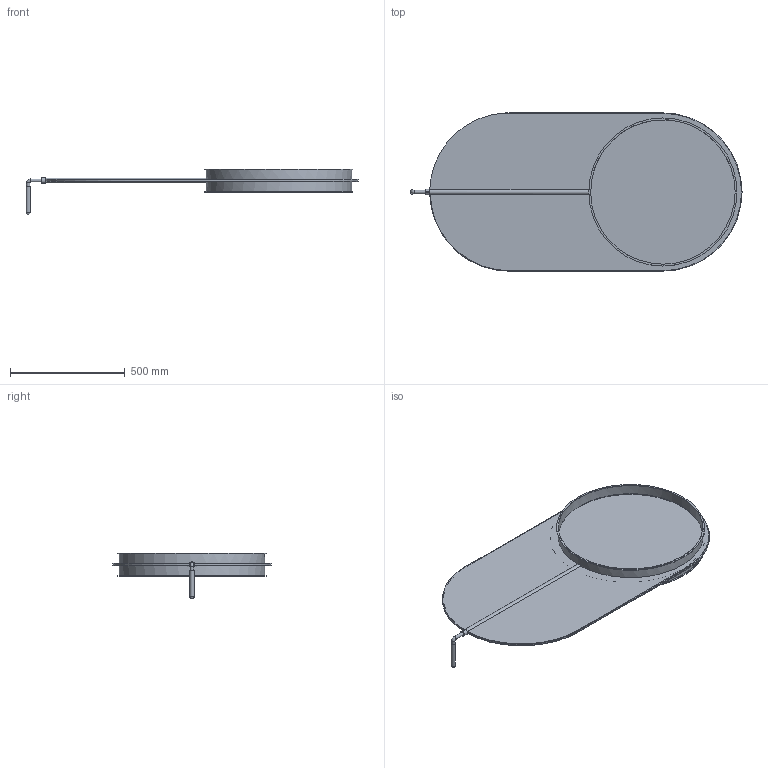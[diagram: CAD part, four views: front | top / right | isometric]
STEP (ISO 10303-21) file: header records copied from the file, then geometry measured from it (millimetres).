
FILE_DESCRIPTION((''),'2;1');
FILE_NAME('U:\Wolfgang\Marcel-3D\fertig\Kapitel 9\6321077.stp','2011-10-11T13:04:12',('iwienholt'),(''),'Autodesk Inventor 2010','Autodesk Inventor 2010','');
FILE_SCHEMA(('AUTOMOTIVE_DESIGN { 1 0 10303 214 1 1 1 1 }'));
Length unit declared in the file: millimetre
Products named in the file (3): 6321077; 6321077-1; Hebel-Ronde DN630
Assembly tree (2 placements, depth 2):
  6321077
    6321077-1
    Hebel-Ronde DN630
Bounding box: 1443.65 x 688 x 199.43 mm (x, y, z)
Volume: 4212335 mm3; surface area: 3306455.8 mm2
Topology: 2 solids, 2 shells, 49 faces, 125 edges, 80 vertices
Faces by surface type: cylinder 24, plane 19, torus 5, sphere 1
Full cylindrical faces by diameter (mm): 6.647 x1, 15 x2, 15.5 x1, 19 x1, 21 x1, 25 x1, 628 x2, 632 x2, 644 x2
Entity records: 1656 total; most frequent: CARTESIAN_POINT 499, DIRECTION 234, ORIENTED_EDGE 196, AXIS2_PLACEMENT_3D 100, EDGE_CURVE 98, EDGE_LOOP 72, VERTEX_POINT 70, FACE_OUTER_BOUND 49
